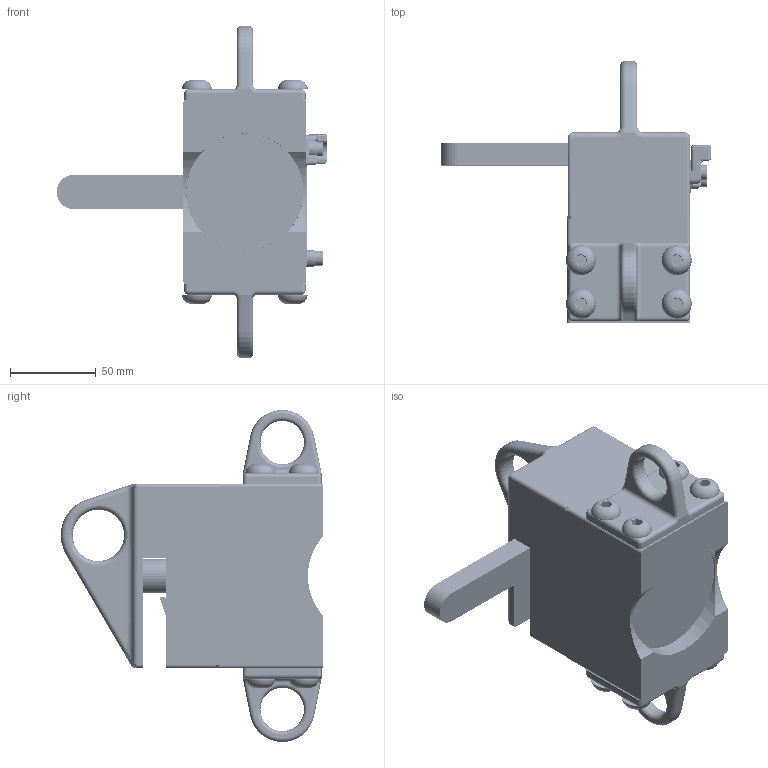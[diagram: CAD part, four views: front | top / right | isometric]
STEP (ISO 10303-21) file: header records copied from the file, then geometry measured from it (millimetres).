
FILE_DESCRIPTION (( 'STEP AP214' ), '1' );
FILE_NAME ('8000051_p.STEP', '2020-03-10T17:32:05', ( '' ), ( '' ), 'SwSTEP 2.0', 'SolidWorks 2018', '' );
FILE_SCHEMA (( 'AUTOMOTIVE_DESIGN' ));
Length unit declared in the file: millimetre
Products named in the file (1): 8000051_p
Bounding box: 158.25 x 153.38 x 194 mm (x, y, z)
Volume: 853856.5 mm3; surface area: 115781.6 mm2
Topology: 2 solids, 28 shells, 2221 faces, 6211 edges, 3995 vertices
Faces by surface type: cylinder 1413, plane 321, cone 219, bspline 200, torus 54, sphere 14
Entity records: 218213 total; most frequent: CARTESIAN_POINT 145726, ORIENTED_EDGE 12314, DIRECTION 7919, EDGE_CURVE 6157, VERTEX_POINT 3995, AXIS2_PLACEMENT_3D 2966, EDGE_LOOP 2300, UNCERTAINTY_MEASURE_WITH_UNIT 2223
